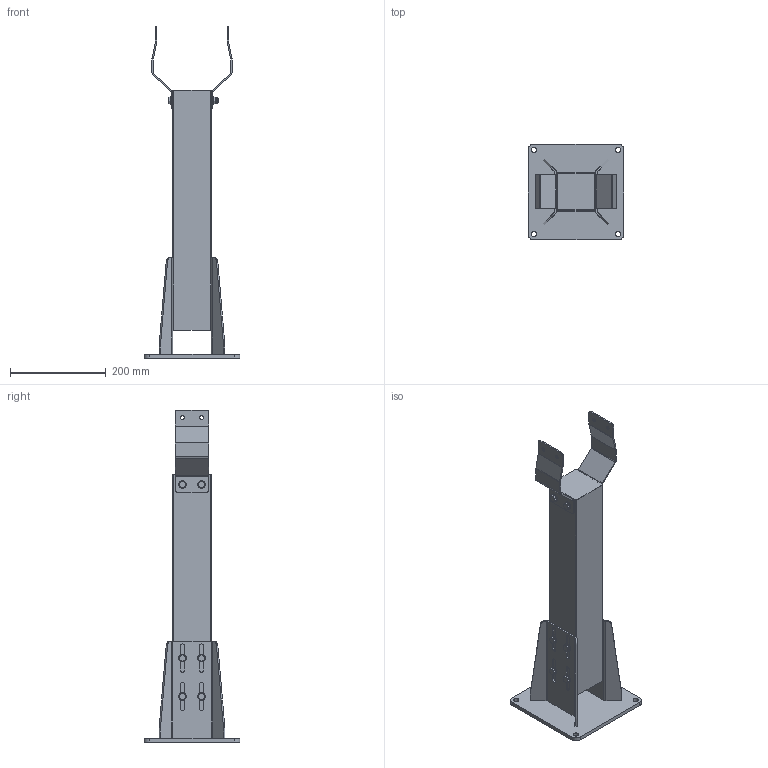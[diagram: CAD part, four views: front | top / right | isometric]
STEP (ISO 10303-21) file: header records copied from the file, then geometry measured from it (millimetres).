
FILE_DESCRIPTION(/* description */ ('LEG SUPPORT S540'),/* implementation_level */ '2;1');
FILE_NAME(/* name */ '500-1346.stp',/* time_stamp */ '2022-09-16T08:47:22+02:00',/* author */ ('PL'),/* organization */ ('CARRYLINE'),/* preprocessor_version */ 'ST-DEVELOPER v19.2',/* originating_system */ 'Autodesk Inventor 2023',/* authorisation */ '');
FILE_SCHEMA (('AUTOMOTIVE_DESIGN { 1 0 10303 214 3 1 1 }'));
Length unit declared in the file: millimetre
Products named in the file (11): 500-1346; 500-1232; 500-1030; 500-1131; 16757_2; 16757_1; 16757_3; 5500-816; 5540-8; 5501-8100; 5552-8
Assembly tree (33 placements, depth 3):
  500-1346
    500-1232  x2
    500-1030
    500-1131
      16757_1  x2
      16757_2
    16757_3  x2
    5540-8  x12
    5500-816  x8
    5501-8100  x2
    5552-8  x2
Bounding box: 200 x 200 x 691.95 mm (x, y, z)
Volume: 982351.1 mm3; surface area: 619945.7 mm2
Topology: 32 solids, 32 shells, 543 faces, 1276 edges, 818 vertices
Faces by surface type: plane 309, cylinder 156, cone 78
Full cylindrical faces by diameter (mm): 6.647 x14, 8 x10, 8.2 x8, 8.4 x12, 9 x12, 11 x4, 11.6 x2, 11.63 x10, 16 x12
Entity records: 7704 total; most frequent: CARTESIAN_POINT 1325, DIRECTION 1276, ORIENTED_EDGE 1186, EDGE_CURVE 593, AXIS2_PLACEMENT_3D 444, LINE 388, VECTOR 388, VERTEX_POINT 385
